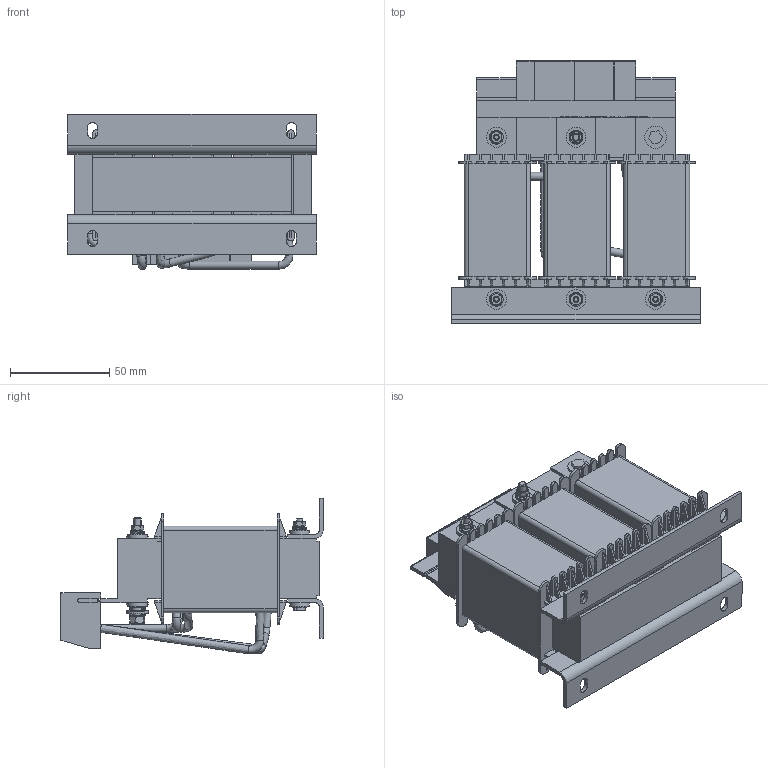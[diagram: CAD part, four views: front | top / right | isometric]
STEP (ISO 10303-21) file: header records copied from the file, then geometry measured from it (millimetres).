
FILE_DESCRIPTION((''),'2;1');
FILE_NAME('K:\Development\CAD-Files_RWK212_RWK305_FN504x\RWK305\RWK305-24-KL2.stp','2014-02-25T15:58:02',('Samuel.Meier'),(''),'Autodesk Inventor 2013','Autodesk Inventor 2013','');
FILE_SCHEMA(('CONFIG_CONTROL_DESIGN'));
Length unit declared in the file: millimetre
Products named in the file (1): RWK305-24-KL
Bounding box: 125 x 132.12 x 77.94 mm (x, y, z)
Volume: 435247.6 mm3; surface area: 109805.2 mm2
Topology: 4 solids, 4 shells, 1707 faces, 4624 edges, 2919 vertices
Faces by surface type: plane 1332, cylinder 214, bspline 116, torus 29, cone 16
Full cylindrical faces by diameter (mm): 3 x8, 3.2 x4, 4 x12, 4.2 x2, 5.7 x4, 6.8 x5, 7 x10, 8.2 x1, 10 x10, 11 x3
Entity records: 56944 total; most frequent: CARTESIAN_POINT 13325, ORIENTED_EDGE 9050, DIRECTION 7911, EDGE_CURVE 4525, VECTOR 3697, LINE 3697, VERTEX_POINT 2892, AXIS2_PLACEMENT_3D 2107
